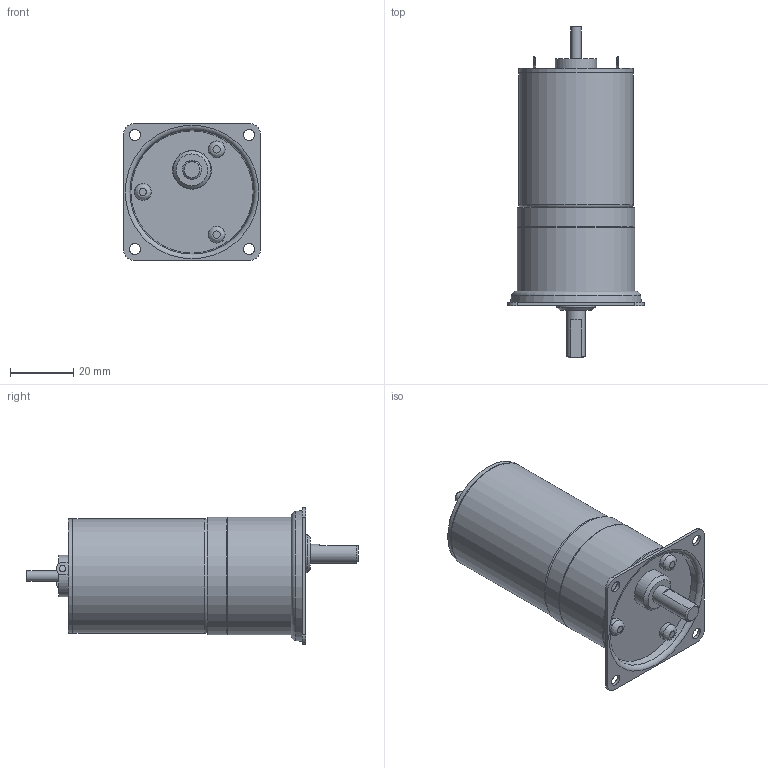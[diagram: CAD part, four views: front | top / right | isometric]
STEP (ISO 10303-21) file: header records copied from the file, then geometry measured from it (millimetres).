
FILE_DESCRIPTION((''),'2;1');
FILE_NAME('C:\Documents and Settings\SSEGAWA\デスクトップ\TP-3644L-PHM-3.STP','2013-07-26T18:52:10',('SSEGAWA'),(''),'Autodesk Inventor 2010','Autodesk Inventor 2010','');
FILE_SCHEMA(('CONFIG_CONTROL_DESIGN'));
Length unit declared in the file: millimetre
Products named in the file (1): tp_3644l_phm_3_Shrinkwrap_1
Bounding box: 43 x 104.6 x 43 mm (x, y, z)
Volume: 76473.2 mm3; surface area: 14553.6 mm2
Topology: 1 solids, 9 shells, 100 faces, 208 edges, 139 vertices
Faces by surface type: plane 43, cylinder 26, bspline 23, torus 4, cone 4
Full cylindrical faces by diameter (mm): 3 x1, 3.175 x1, 3.5 x1, 5.3 x3, 6 x1, 12 x1, 12.2 x1, 13 x1, 35.6 x1, 36 x2, 36.6 x1, 37 x2
Entity records: 2756 total; most frequent: CARTESIAN_POINT 828, DIRECTION 383, ORIENTED_EDGE 274, EDGE_LOOP 171, AXIS2_PLACEMENT_3D 170, EDGE_CURVE 137, VERTEX_POINT 114, STYLED_ITEM 101
